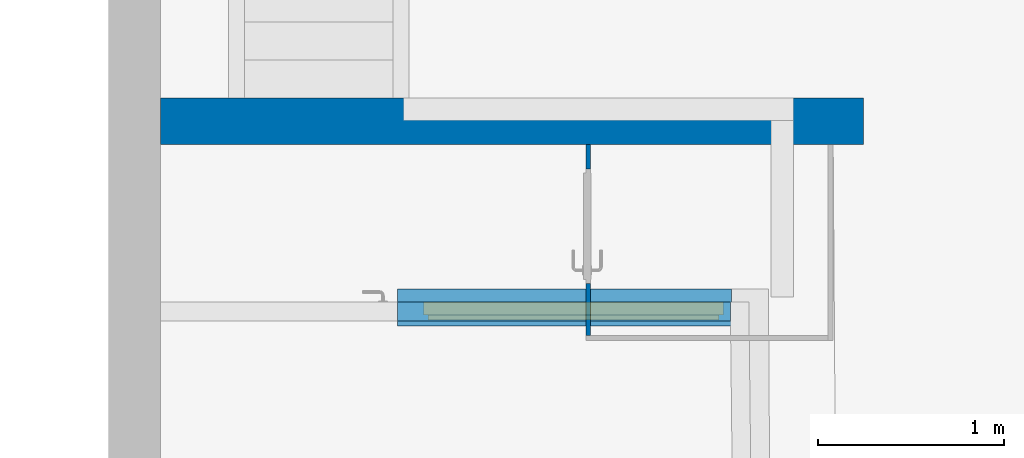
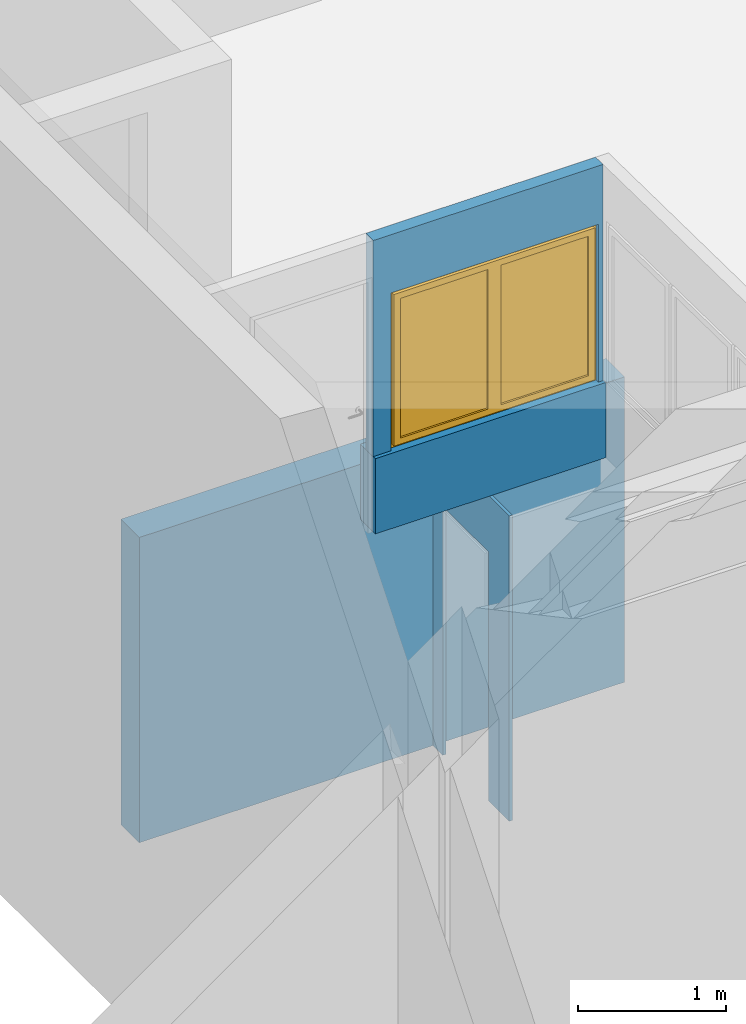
# One storey, part 170 of 301: 4 walls, 1 window, 2 openings.
"""IFC2X3 building model written with IfcOpenShell, lengths in millimetres."""

from ifc_helpers import new_model, entity, si_unit, converted_unit, derived_unit, money_unit, direction, frame, origin_with_axes, place, context, subcontext, project, spatial, open_shell, faceted_brep, surface_model, material, type_object, element, fill, save


model = new_model("IFC2X3")

# Units and contexts
model_context = context("Model", 3, precision=0.01, world=origin_with_axes(), true_north=direction((0.0, 1.0)))
body_context = subcontext(model_context, "Body", "Model", "MODEL_VIEW")
ifc_project = project(units=[si_unit("LENGTHUNIT", "METRE", prefix="MILLI"), si_unit("AREAUNIT", "SQUARE_METRE"), si_unit("VOLUMEUNIT", "CUBIC_METRE"), converted_unit("PLANEANGLEUNIT", "DEGREE", entity("IfcPlaneAngleMeasure", 0.0174532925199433), si_unit("PLANEANGLEUNIT", "RADIAN"), dimensions=[0, 0, 0, 0, 0, 0, 0]), money_unit("EUR"), converted_unit("TIMEUNIT", "Year", entity("IfcTimeMeasure", 31557600.0), si_unit("TIMEUNIT", "SECOND"), dimensions=[0, 0, 1, 0, 0, 0, 0]), si_unit("MASSUNIT", "GRAM", prefix="KILO"), si_unit("THERMODYNAMICTEMPERATUREUNIT", "DEGREE_CELSIUS"), si_unit("LUMINOUSINTENSITYUNIT", "LUMEN"), si_unit("ENERGYUNIT", "JOULE", prefix="MEGA"), derived_unit("THERMALCONDUCTANCEUNIT", [(si_unit("POWERUNIT", "WATT"), 1), (si_unit("LENGTHUNIT", "METRE"), -1), (si_unit("THERMODYNAMICTEMPERATUREUNIT", "KELVIN"), -1)]), derived_unit("SPECIFICHEATCAPACITYUNIT", [(si_unit("ENERGYUNIT", "JOULE"), 1), (si_unit("MASSUNIT", "GRAM", prefix="KILO"), -1), (si_unit("THERMODYNAMICTEMPERATUREUNIT", "KELVIN"), -1)]), derived_unit("MASSDENSITYUNIT", [(si_unit("MASSUNIT", "GRAM", prefix="KILO"), 1), (si_unit("VOLUMEUNIT", "CUBIC_METRE"), -1)])], contexts=[model_context])

# Site, building, storey
site_placement = place(None, frame((0.0, 0.0, 8650.0), z_axis=(0.0, 0.0, 1.0), x_axis=(1.0, 0.0, 0.0)))
site = spatial("IfcSite", under=ifc_project, at=site_placement, Name="43301:001:0844", CompositionType="ELEMENT")
building_placement = place(site_placement, origin_with_axes())
building = spatial("IfcBuilding", under=site, at=building_placement, Name="Kuressaare Ametikooli tuulikute mehaanikute õppekorpus", CompositionType="ELEMENT")
storey_placement = place(building_placement, origin_with_axes())
storey = spatial("IfcBuildingStorey", under=building, at=storey_placement, Name="1.korrus", CompositionType="ELEMENT", Elevation=0.0)

# Walls
ifc_material = material(Name="GENEERILINE - KONSTRUKTRIOON")
wall_type_1 = type_object("IfcWallType", Name="GENEERILINE - KONSTRUKTRIOON 250", PredefinedType="NOTDEFINED")
wall_1_placement = place(storey_placement, frame((87938.77577872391, 114611.9480091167, -330.0), z_axis=(0.0, 0.0, 1.0), x_axis=(1.0, 0.0, 0.0)))
element("IfcWall", 1, at=wall_1_placement, inside=storey, type_object=wall_type_1, material=ifc_material, Name="SS-XX", context=body_context, shape_type="Brep", body=[
    faceted_brep([(279.9979526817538, -250.0, 2515.0), (4061.498562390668, -250.0, 2515.0), (4061.498562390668, 0.0, 2515.0), (279.9998666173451, 0.0, 2515.0), (279.9979526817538, -250.0, 0.0), (4061.498562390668, -250.0, 0.0), (4061.498562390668, 0.0, 0.0), (279.9998666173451, 0.0, 0.0)], [[[0, 1, 2, 3]], [[4, 5, 1, 0]], [[2, 1, 5, 6]], [[3, 2, 6, 7]], [[4, 0, 3, 7]], [[7, 6, 5, 4]]]),
])
wall_type_2 = type_object("IfcWallType", Name="GENEERILINE - KONSTRUKTRIOON 200", PredefinedType="NOTDEFINED")
wall_2_placement = place(storey_placement, frame((89493.46414157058, 113585.0413980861, 2360.0), z_axis=(0.0, 0.0, 1.0), x_axis=(1.0, 0.0, 0.0)))
element("IfcWall", 2, at=wall_2_placement, inside=storey, type_object=wall_type_2, material=ifc_material, Name="SS-XX", context=body_context, shape_type="Brep", body=[
    faceted_brep([(1797.07307401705, -200.0000000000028, 620.0000000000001), (1795.816549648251, 0.0, 620.0000000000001), (0.0, 0.0, 620.0000000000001), (0.0, -200.0000000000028, 620.0000000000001), (1797.07307401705, -200.0000000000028, 0.0), (1795.816549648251, 0.0, 0.0), (0.0, 0.0, 0.0), (0.0, -200.0000000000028, 0.0)], [[[0, 1, 2, 3]], [[1, 0, 4, 5]], [[1, 5, 6, 2]], [[7, 3, 2, 6]], [[4, 0, 3, 7]], [[5, 4, 7, 6]]]),
])

# Wall, opening, window
wall_type_3 = type_object("IfcWallType", Name="GENEERILINE - KONSTRUKTRIOON 100", PredefinedType="NOTDEFINED")
wall_3_placement = place(storey_placement, frame((89493.43082110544, 113513.337023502, 2980.0), z_axis=(0.0, 0.0, 1.0), x_axis=(1.0, 0.0, 0.0)))
wall_3 = element("IfcWall", 3, at=wall_3_placement, inside=storey, type_object=wall_type_3, material=ifc_material, Name="SS-XX", context=body_context, shape_type="Brep", body=[
    faceted_brep([(139.3215974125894, 0.0, 1300.0), (139.3215974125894, 0.0, 0.0), (0.0, 0.0, 0.0), (0.0, 0.0, 1780.000000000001), (1790.467570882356, 0.0, 1780.000000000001), (1790.467570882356, 0.0, 0.0), (1755.242617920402, 0.0, 0.0), (1755.242617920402, 0.0, 1300.0), (139.3215974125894, -99.99999999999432, 1300.0), (139.3215974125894, -99.99999999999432, 0.0), (0.0, -99.99999999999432, 0.0), (0.0, -99.99999999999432, 1780.000000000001), (1791.605936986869, -99.99999999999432, 1780.000000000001), (1791.605936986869, -99.99999999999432, 0.0), (1755.242617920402, -99.99999999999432, 0.0), (1755.242617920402, -99.99999999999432, 1300.0)], [[[0, 1, 2, 3, 4, 5, 6, 7]], [[1, 0, 8, 9]], [[1, 9, 10, 2]], [[11, 3, 2, 10]], [[4, 3, 11, 12]], [[12, 13, 5, 4]], [[14, 6, 5, 13]], [[7, 6, 14, 15]], [[0, 7, 15, 8]], [[15, 14, 13, 12, 11, 10, 9, 8]]]),
])
opening_1_placement = place(wall_3_placement, frame((947.2821076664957, 0.0, 0.0), z_axis=(0.0, 0.0, 1.0), x_axis=(1.0, 0.0, 0.0)))
opening_1 = element("IfcOpeningElement", 4, at=opening_1_placement, cuts=wall_3, Name="SA-XX", context=body_context, shape_type="Brep", body=[
    faceted_brep([(-807.9605102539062, -100.9999999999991, 1300.0), (-807.9605102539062, -100.9999999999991, 0.0), (807.9605102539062, -100.9999999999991, 0.0), (807.9605102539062, -100.9999999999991, 1300.0), (-807.9605102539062, 1.000000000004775, 1300.0), (-807.9605102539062, 1.000000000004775, 0.0), (807.9605102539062, 1.000000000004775, 0.0), (807.9605102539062, 1.000000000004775, 1300.0)], [[[0, 1, 2, 3]], [[4, 5, 1, 0]], [[5, 6, 2, 1]], [[6, 7, 3, 2]], [[7, 4, 0, 3]], [[6, 5, 4, 7]]]),
])
window_style = type_object("IfcWindowStyle", Name="Double Window 27", ConstructionType="NOTDEFINED", OperationType="DOUBLE_PANEL_VERTICAL", ParameterTakesPrecedence=False, Sizeable=False)
window_placement = place(opening_1_placement, frame((807.9605102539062, 0.0, 0.0), z_axis=(0.0, 0.0, 1.0), x_axis=(-1.0, 0.0, 0.0)))
window = element("IfcWindow", 5, at=window_placement, inside=storey, type_object=window_style, Name="SA-XX", OverallHeight=1300.0, OverallWidth=1615.92, context=body_context, shape_type="SurfaceModel", body=[
    faceted_brep([(1590.921020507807, 69.99999999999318, 1250.0), (1590.921020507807, 44.99999999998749, 1250.0), (1565.921020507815, 44.99999999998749, 1250.0), (1565.921020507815, 0.0, 1250.0), (1615.921020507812, 0.0, 1250.0), (1615.921020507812, 69.99999999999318, 1250.0), (1590.921020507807, 69.99999999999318, 50.00000000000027), (1590.921020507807, 44.99999999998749, 50.00000000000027), (1565.921020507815, 44.99999999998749, 50.00000000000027), (1565.921020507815, 0.0, 49.99999999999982), (1615.921020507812, 0.0, 49.99999999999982), (1615.921020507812, 69.99999999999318, 50.00000000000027)], [[[0, 1, 2, 3, 4, 5]], [[1, 0, 6, 7]], [[8, 2, 1, 7]], [[2, 8, 9, 3]], [[4, 3, 9, 10]], [[5, 4, 10, 11]], [[6, 0, 5, 11]], [[7, 6, 11, 10, 9, 8]]]),
    faceted_brep([(49.99999999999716, 44.99999999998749, 1250.0), (25.00000000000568, 44.99999999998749, 1250.0), (25.00000000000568, 69.99999999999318, 1250.0), (0.0, 69.99999999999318, 1250.0), (0.0, 0.0, 1250.0), (49.99999999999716, 0.0, 1250.0), (49.99999999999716, 44.99999999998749, 50.00000000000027), (25.00000000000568, 44.99999999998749, 50.00000000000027), (25.00000000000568, 69.99999999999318, 50.00000000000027), (0.0, 69.99999999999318, 50.00000000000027), (0.0, 0.0, 49.99999999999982), (49.99999999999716, 0.0, 49.99999999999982)], [[[0, 1, 2, 3, 4, 5]], [[1, 0, 6, 7]], [[8, 2, 1, 7]], [[2, 8, 9, 3]], [[9, 10, 4, 3]], [[10, 11, 5, 4]], [[6, 0, 5, 11]], [[7, 6, 11, 10, 9, 8]]]),
    faceted_brep([(832.9605102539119, 44.99999999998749, 1250.0), (782.9605102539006, 44.99999999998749, 1250.0), (782.9605102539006, 0.0, 1250.0), (832.9605102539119, 0.0, 1250.0), (832.9605102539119, 44.99999999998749, 50.00000000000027), (782.9605102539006, 44.99999999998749, 50.00000000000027), (782.9605102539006, 0.0, 49.99999999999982), (832.9605102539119, 0.0, 49.99999999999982)], [[[0, 1, 2, 3]], [[1, 0, 4, 5]], [[1, 5, 6, 2]], [[6, 7, 3, 2]], [[4, 0, 3, 7]], [[4, 7, 6, 5]]]),
    faceted_brep([(832.9605102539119, 44.99999999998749, 50.00000000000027), (782.9605102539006, 44.99999999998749, 50.00000000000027), (782.9605102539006, 0.0, 49.99999999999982), (832.9605102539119, 0.0, 49.99999999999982), (1565.921020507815, 44.99999999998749, 50.00000000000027), (1590.921020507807, 44.99999999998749, 50.00000000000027), (1590.921020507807, 44.99999999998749, 24.99999999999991), (25.00000000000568, 44.99999999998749, 24.99999999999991), (25.00000000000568, 44.99999999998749, 50.00000000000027), (49.99999999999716, 44.99999999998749, 50.00000000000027), (49.99999999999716, 0.0, 49.99999999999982), (1615.921020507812, 0.0, 49.99999999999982), (1565.921020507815, 0.0, 49.99999999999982), (0.0, 0.0, 49.99999999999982), (0.0, 0.0, 0.0), (1615.921020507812, 0.0, 0.0), (1615.921020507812, 69.99999999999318, 50.00000000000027), (1590.921020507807, 69.99999999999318, 50.00000000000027), (1590.921020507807, 69.99999999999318, 24.99999999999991), (25.00000000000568, 69.99999999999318, 24.99999999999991), (25.00000000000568, 69.99999999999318, 50.00000000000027), (0.0, 69.99999999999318, 50.00000000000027), (0.0, 69.99999999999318, 0.0), (1615.921020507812, 69.99999999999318, 0.0)], [[[0, 1, 2, 3]], [[1, 0, 4, 5, 6, 7, 8, 9]], [[1, 9, 10, 2]], [[11, 12, 3, 2, 10, 13, 14, 15]], [[4, 0, 3, 12]], [[5, 4, 12, 11, 16, 17]], [[5, 17, 18, 6]], [[6, 18, 19, 7]], [[19, 20, 8, 7]], [[9, 8, 20, 21, 13, 10]], [[22, 14, 13, 21]], [[23, 15, 14, 22]], [[16, 11, 15, 23]], [[18, 17, 16, 23, 22, 21, 20, 19]]]),
    faceted_brep([(1590.921020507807, 69.99999999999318, 1250.0), (1590.921020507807, 69.99999999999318, 1275.0), (25.00000000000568, 69.99999999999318, 1275.0), (25.00000000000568, 69.99999999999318, 1250.0), (0.0, 69.99999999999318, 1250.0), (0.0, 69.99999999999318, 1300.0), (1615.921020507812, 69.99999999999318, 1300.0), (1615.921020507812, 69.99999999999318, 1250.0), (1590.921020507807, 44.99999999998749, 1250.0), (1590.921020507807, 44.99999999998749, 1275.0), (25.00000000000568, 44.99999999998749, 1275.0), (25.00000000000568, 44.99999999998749, 1250.0), (49.99999999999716, 44.99999999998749, 1250.0), (49.99999999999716, 0.0, 1250.0), (0.0, 0.0, 1250.0), (0.0, 0.0, 1300.0), (1615.921020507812, 0.0, 1300.0), (1615.921020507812, 0.0, 1250.0), (1565.921020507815, 0.0, 1250.0), (1565.921020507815, 44.99999999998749, 1250.0), (832.9605102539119, 44.99999999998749, 1250.0), (782.9605102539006, 44.99999999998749, 1250.0), (782.9605102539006, 0.0, 1250.0), (832.9605102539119, 0.0, 1250.0)], [[[0, 1, 2, 3, 4, 5, 6, 7]], [[1, 0, 8, 9]], [[2, 1, 9, 10]], [[3, 2, 10, 11]], [[11, 12, 13, 14, 4, 3]], [[4, 14, 15, 5]], [[5, 15, 16, 6]], [[6, 16, 17, 7]], [[8, 0, 7, 17, 18, 19]], [[9, 8, 19, 20, 21, 12, 11, 10]], [[12, 21, 22, 13]], [[22, 23, 18, 17, 16, 15, 14, 13]], [[20, 19, 18, 23]], [[20, 23, 22, 21]]]),
    faceted_brep([(1540.92102050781, 44.99999999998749, 1225.0), (1590.921020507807, 44.99999999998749, 1225.0), (1590.921020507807, 94.99999999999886, 1225.0), (1540.92102050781, 94.99999999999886, 1225.0), (1540.92102050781, 44.99999999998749, 75.00000000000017), (1590.921020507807, 44.99999999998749, 75.00000000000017), (1590.921020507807, 94.99999999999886, 75.00000000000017), (1540.92102050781, 94.99999999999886, 75.00000000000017)], [[[0, 1, 2, 3]], [[0, 4, 5, 1]], [[1, 5, 6, 2]], [[3, 2, 6, 7]], [[4, 0, 3, 7]], [[5, 4, 7, 6]]]),
    faceted_brep([(857.9605102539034, 44.99999999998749, 75.00000000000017), (807.9605102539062, 44.99999999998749, 75.00000000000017), (807.9605102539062, 94.99999999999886, 75.00000000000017), (857.9605102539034, 94.99999999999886, 75.00000000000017), (857.9605102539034, 44.99999999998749, 1225.0), (807.9605102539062, 44.99999999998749, 1225.0), (807.9605102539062, 94.99999999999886, 1225.0), (857.9605102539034, 94.99999999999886, 1225.0)], [[[0, 1, 2, 3]], [[0, 4, 5, 1]], [[1, 5, 6, 2]], [[3, 2, 6, 7]], [[4, 0, 3, 7]], [[5, 4, 7, 6]]]),
    faceted_brep([(807.9605102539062, 44.99999999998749, 24.99999999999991), (807.9605102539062, 44.99999999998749, 75.00000000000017), (807.9605102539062, 94.99999999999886, 75.00000000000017), (807.9605102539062, 94.99999999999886, 24.99999999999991), (1590.921020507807, 44.99999999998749, 24.99999999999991), (1590.921020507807, 44.99999999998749, 75.00000000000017), (1540.92102050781, 44.99999999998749, 75.00000000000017), (857.9605102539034, 44.99999999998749, 75.00000000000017), (857.9605102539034, 94.99999999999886, 75.00000000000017), (1540.92102050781, 94.99999999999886, 75.00000000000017), (1590.921020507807, 94.99999999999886, 75.00000000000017), (1590.921020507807, 94.99999999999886, 24.99999999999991)], [[[0, 1, 2, 3]], [[0, 4, 5, 6, 7, 1]], [[1, 7, 8, 2]], [[3, 2, 8, 9, 10, 11]], [[4, 0, 3, 11]], [[5, 4, 11, 10]], [[6, 5, 10, 9]], [[7, 6, 9, 8]]]),
    faceted_brep([(1590.921020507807, 44.99999999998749, 1275.0), (1590.921020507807, 44.99999999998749, 1225.0), (1590.921020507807, 94.99999999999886, 1225.0), (1590.921020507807, 94.99999999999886, 1275.0), (807.9605102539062, 44.99999999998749, 1275.0), (807.9605102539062, 44.99999999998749, 1225.0), (857.9605102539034, 44.99999999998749, 1225.0), (1540.92102050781, 44.99999999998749, 1225.0), (1540.92102050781, 94.99999999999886, 1225.0), (857.9605102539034, 94.99999999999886, 1225.0), (807.9605102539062, 94.99999999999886, 1225.0), (807.9605102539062, 94.99999999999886, 1275.0)], [[[0, 1, 2, 3]], [[0, 4, 5, 6, 7, 1]], [[1, 7, 8, 2]], [[3, 2, 8, 9, 10, 11]], [[4, 0, 3, 11]], [[5, 4, 11, 10]], [[6, 5, 10, 9]], [[7, 6, 9, 8]]]),
    surface_model("IfcShellBasedSurfaceModel", [(1540.92102050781, 59.99999999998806, 75.00000000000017), (1540.92102050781, 59.99999999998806, 1225.0), (857.9605102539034, 59.99999999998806, 1225.0), (857.9605102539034, 59.99999999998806, 75.00000000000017)], [open_shell([[[0, 1, 2, 3]]])]),
    surface_model("IfcShellBasedSurfaceModel", [(1540.92102050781, 79.9999999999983, 75.00000000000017), (857.9605102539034, 79.9999999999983, 75.00000000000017), (857.9605102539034, 79.9999999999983, 1225.0), (1540.92102050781, 79.9999999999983, 1225.0)], [open_shell([[[0, 1, 2, 3]]])]),
    faceted_brep([(757.9605102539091, 44.99999999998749, 1225.0), (807.9605102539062, 44.99999999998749, 1225.0), (807.9605102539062, 94.99999999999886, 1225.0), (757.9605102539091, 94.99999999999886, 1225.0), (757.9605102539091, 44.99999999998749, 75.00000000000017), (807.9605102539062, 44.99999999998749, 75.00000000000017), (807.9605102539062, 94.99999999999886, 75.00000000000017), (757.9605102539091, 94.99999999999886, 75.00000000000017)], [[[0, 1, 2, 3]], [[0, 4, 5, 1]], [[1, 5, 6, 2]], [[3, 2, 6, 7]], [[4, 0, 3, 7]], [[5, 4, 7, 6]]]),
    faceted_brep([(75.00000000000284, 44.99999999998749, 75.00000000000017), (25.00000000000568, 44.99999999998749, 75.00000000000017), (25.00000000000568, 94.99999999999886, 75.00000000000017), (75.00000000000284, 94.99999999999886, 75.00000000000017), (75.00000000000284, 44.99999999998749, 1225.0), (25.00000000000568, 44.99999999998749, 1225.0), (25.00000000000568, 94.99999999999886, 1225.0), (75.00000000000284, 94.99999999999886, 1225.0)], [[[0, 1, 2, 3]], [[0, 4, 5, 1]], [[1, 5, 6, 2]], [[3, 2, 6, 7]], [[4, 0, 3, 7]], [[5, 4, 7, 6]]]),
    faceted_brep([(25.00000000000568, 44.99999999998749, 24.99999999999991), (25.00000000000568, 44.99999999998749, 75.00000000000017), (25.00000000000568, 94.99999999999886, 75.00000000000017), (25.00000000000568, 94.99999999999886, 24.99999999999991), (807.9605102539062, 44.99999999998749, 24.99999999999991), (807.9605102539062, 44.99999999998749, 75.00000000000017), (757.9605102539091, 44.99999999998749, 75.00000000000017), (75.00000000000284, 44.99999999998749, 75.00000000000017), (75.00000000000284, 94.99999999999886, 75.00000000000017), (757.9605102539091, 94.99999999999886, 75.00000000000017), (807.9605102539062, 94.99999999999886, 75.00000000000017), (807.9605102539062, 94.99999999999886, 24.99999999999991)], [[[0, 1, 2, 3]], [[0, 4, 5, 6, 7, 1]], [[1, 7, 8, 2]], [[3, 2, 8, 9, 10, 11]], [[4, 0, 3, 11]], [[5, 4, 11, 10]], [[6, 5, 10, 9]], [[7, 6, 9, 8]]]),
    faceted_brep([(807.9605102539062, 44.99999999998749, 1275.0), (807.9605102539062, 44.99999999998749, 1225.0), (807.9605102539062, 94.99999999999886, 1225.0), (807.9605102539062, 94.99999999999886, 1275.0), (25.00000000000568, 44.99999999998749, 1275.0), (25.00000000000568, 44.99999999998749, 1225.0), (75.00000000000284, 44.99999999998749, 1225.0), (757.9605102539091, 44.99999999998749, 1225.0), (757.9605102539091, 94.99999999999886, 1225.0), (75.00000000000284, 94.99999999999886, 1225.0), (25.00000000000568, 94.99999999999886, 1225.0), (25.00000000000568, 94.99999999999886, 1275.0)], [[[0, 1, 2, 3]], [[0, 4, 5, 6, 7, 1]], [[1, 7, 8, 2]], [[3, 2, 8, 9, 10, 11]], [[4, 0, 3, 11]], [[5, 4, 11, 10]], [[6, 5, 10, 9]], [[7, 6, 9, 8]]]),
    surface_model("IfcShellBasedSurfaceModel", [(757.9605102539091, 59.99999999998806, 75.00000000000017), (757.9605102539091, 59.99999999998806, 1225.0), (75.00000000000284, 59.99999999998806, 1225.0), (75.00000000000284, 59.99999999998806, 75.00000000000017)], [open_shell([[[0, 1, 2, 3]]])]),
    surface_model("IfcShellBasedSurfaceModel", [(757.9605102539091, 79.9999999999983, 75.00000000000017), (75.00000000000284, 79.9999999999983, 75.00000000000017), (75.00000000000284, 79.9999999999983, 1225.0), (757.9605102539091, 79.9999999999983, 1225.0)], [open_shell([[[0, 1, 2, 3]]])]),
])
fill(opening_1, window)

# Wall, opening
wall_type_4 = type_object("IfcWallType", Name="GENEERILINE - KONSTRUKTRIOON 25", PredefinedType="NOTDEFINED")
wall_4_placement = place(storey_placement, frame((90506.9526391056, 113308.3724975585, -330.0), z_axis=(0.0, 0.0, 1.0), x_axis=(0.0, 1.0, 0.0)))
wall_4 = element("IfcWall", 6, at=wall_4_placement, inside=storey, type_object=wall_type_4, material=ifc_material, Name="SS-XX", context=body_context, shape_type="Brep", body=[
    faceted_brep([(305.999755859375, -25.00000000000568, 0.0), (305.999755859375, -25.00000000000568, 2050.0), (921.2225397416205, -25.00000000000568, 2050.0), (921.2225397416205, -25.00000000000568, 0.0), (1053.575511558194, -25.00000000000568, 0.0), (1053.575511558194, -25.00000000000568, 2515.0), (25.00000000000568, -25.00000000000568, 2515.0), (25.00000000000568, -25.00000000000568, 0.0), (305.999755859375, 0.0, 0.0), (305.999755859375, 0.0, 2050.0), (921.2225397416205, 0.0, 2050.0), (921.2225397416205, 0.0, 0.0), (1053.575511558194, 0.0, 0.0), (1053.575511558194, 0.0, 2515.0), (25.00000000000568, 0.0, 2515.0), (25.00000000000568, 0.0, 0.0)], [[[0, 1, 2, 3, 4, 5, 6, 7]], [[1, 0, 8, 9]], [[2, 1, 9, 10]], [[3, 2, 10, 11]], [[3, 11, 12, 4]], [[5, 4, 12, 13]], [[5, 13, 14, 6]], [[6, 14, 15, 7]], [[8, 0, 7, 15]], [[9, 8, 15, 14, 13, 12, 11, 10]]]),
])
opening_2_placement = place(wall_4_placement, frame((613.6111478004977, 0.0, 0.0), z_axis=(0.0, 0.0, 1.0), x_axis=(1.0, 0.0, 0.0)))
element("IfcOpeningElement", 7, at=opening_2_placement, cuts=wall_4, Name="SU-XX", context=body_context, shape_type="Brep", body=[
    faceted_brep([(-307.6113919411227, -26.00000000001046, 2050.0), (-307.6113919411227, -26.00000000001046, 0.0), (307.6113919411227, -26.00000000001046, 0.0), (307.6113919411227, -26.00000000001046, 2050.0), (-307.6113919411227, 1.000000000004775, 2050.0), (-307.6113919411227, 1.000000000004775, 0.0), (307.6113919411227, 1.000000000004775, 0.0), (307.6113919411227, 1.000000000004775, 2050.0)], [[[0, 1, 2, 3]], [[4, 5, 1, 0]], [[5, 6, 2, 1]], [[6, 7, 3, 2]], [[7, 4, 0, 3]], [[6, 5, 4, 7]]]),
])

save(model, "model.ifc")
